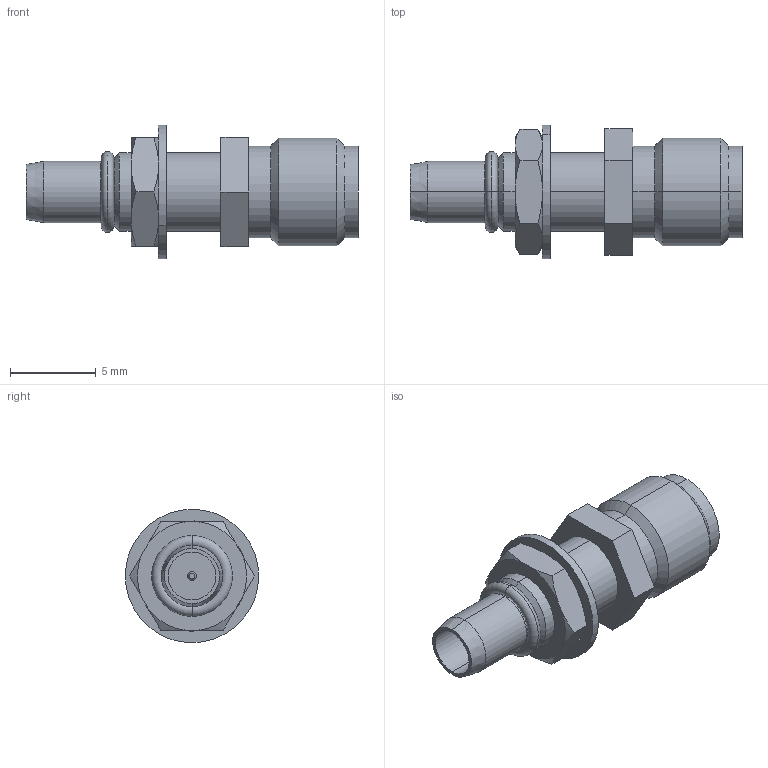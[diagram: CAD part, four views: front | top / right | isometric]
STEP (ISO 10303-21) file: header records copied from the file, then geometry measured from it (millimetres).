
FILE_DESCRIPTION (( 'STEP AP214' ), '1' );
FILE_NAME ('SF1114-6008.STEP', '2017-03-03T20:56:47', ( '' ), ( '' ), 'SwSTEP 2.0', 'SolidWorks 2016', '' );
FILE_SCHEMA (( 'AUTOMOTIVE_DESIGN' ));
Length unit declared in the file: inch
Products named in the file (1): SF1114-6008
Bounding box: 19.3 x 7.76 x 7.76 mm (x, y, z)
Volume: 370.6 mm3; surface area: 564.8 mm2
Topology: 2 solids, 2 shells, 128 faces, 377 edges, 236 vertices
Faces by surface type: plane 51, cylinder 49, cone 24, torus 4
Entity records: 6079 total; most frequent: CARTESIAN_POINT 854, DIRECTION 755, ORIENTED_EDGE 754, EDGE_CURVE 377, AXIS2_PLACEMENT_3D 273, VERTEX_POINT 236, LINE 209, VECTOR 209
